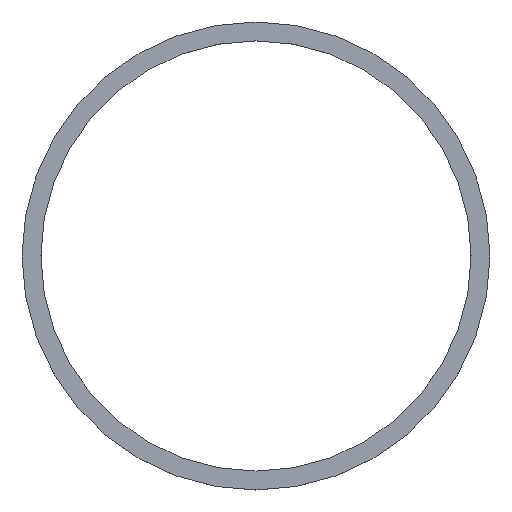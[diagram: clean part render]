
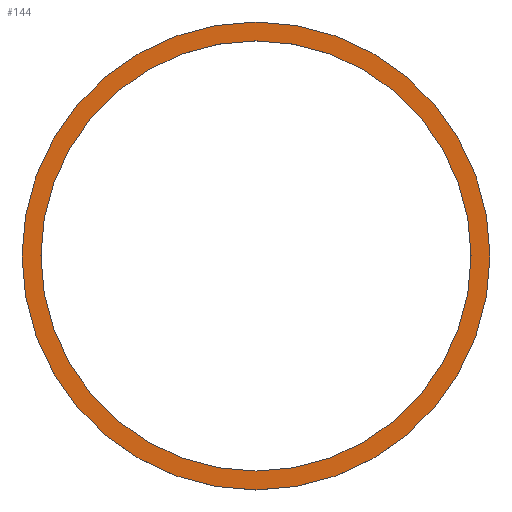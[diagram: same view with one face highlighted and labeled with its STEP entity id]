
A CAD part, top view. The second image highlights one B-rep face of the part: STEP entity #144.
In plain terms, the highlighted planar face has unit normal (0, 0, 1).
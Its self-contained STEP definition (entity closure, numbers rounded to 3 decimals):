
#24 = VERTEX_POINT('',#25);
#25 = CARTESIAN_POINT('',(19.8,43.5,11.6));
#32 = CYLINDRICAL_SURFACE('',#33,19.8);
#33 = AXIS2_PLACEMENT_3D('',#34,#35,#36);
#34 = CARTESIAN_POINT('',(0.,43.5,10.4));
#35 = DIRECTION('',(-0.,-0.,-1.));
#36 = DIRECTION('',(1.,0.,0.));
#51 = EDGE_CURVE('',#24,#24,#52,.T.);
#52 = SURFACE_CURVE('',#53,(#58,#65),.PCURVE_S1.);
#53 = CIRCLE('',#54,19.8);
#54 = AXIS2_PLACEMENT_3D('',#55,#56,#57);
#55 = CARTESIAN_POINT('',(0.,43.5,11.6));
#56 = DIRECTION('',(0.,0.,1.));
#57 = DIRECTION('',(1.,0.,0.));
#58 = PCURVE('',#32,#59);
#59 = DEFINITIONAL_REPRESENTATION('',(#60),#64);
#60 = LINE('',#61,#62);
#61 = CARTESIAN_POINT('',(-0.,-1.2));
#62 = VECTOR('',#63,1.);
#63 = DIRECTION('',(-1.,0.));
#64 = ( GEOMETRIC_REPRESENTATION_CONTEXT(2) 
PARAMETRIC_REPRESENTATION_CONTEXT() REPRESENTATION_CONTEXT('2D SPACE',''
  ) );
#65 = PCURVE('',#66,#71);
#66 = PLANE('',#67);
#67 = AXIS2_PLACEMENT_3D('',#68,#69,#70);
#68 = CARTESIAN_POINT('',(0.,43.5,11.6));
#69 = DIRECTION('',(0.,0.,1.));
#70 = DIRECTION('',(1.,0.,-0.));
#71 = DEFINITIONAL_REPRESENTATION('',(#72),#76);
#72 = CIRCLE('',#73,19.8);
#73 = AXIS2_PLACEMENT_2D('',#74,#75);
#74 = CARTESIAN_POINT('',(0.,0.));
#75 = DIRECTION('',(1.,0.));
#76 = ( GEOMETRIC_REPRESENTATION_CONTEXT(2) 
PARAMETRIC_REPRESENTATION_CONTEXT() REPRESENTATION_CONTEXT('2D SPACE',''
  ) );
#133 = CYLINDRICAL_SURFACE('',#134,18.2);
#134 = AXIS2_PLACEMENT_3D('',#135,#136,#137);
#135 = CARTESIAN_POINT('',(0.,43.5,10.2));
#136 = DIRECTION('',(-0.,-0.,-1.));
#137 = DIRECTION('',(1.,0.,0.));
#144 = ADVANCED_FACE('',(#145,#148),#66,.T.);
#145 = FACE_BOUND('',#146,.T.);
#146 = EDGE_LOOP('',(#147));
#147 = ORIENTED_EDGE('',*,*,#51,.T.);
#148 = FACE_BOUND('',#149,.T.);
#149 = EDGE_LOOP('',(#150));
#150 = ORIENTED_EDGE('',*,*,#151,.T.);
#151 = EDGE_CURVE('',#152,#152,#154,.T.);
#152 = VERTEX_POINT('',#153);
#153 = CARTESIAN_POINT('',(18.2,43.5,11.6));
#154 = SURFACE_CURVE('',#155,(#160,#171),.PCURVE_S1.);
#155 = CIRCLE('',#156,18.2);
#156 = AXIS2_PLACEMENT_3D('',#157,#158,#159);
#157 = CARTESIAN_POINT('',(0.,43.5,11.6));
#158 = DIRECTION('',(0.,0.,-1.));
#159 = DIRECTION('',(1.,0.,0.));
#160 = PCURVE('',#66,#161);
#161 = DEFINITIONAL_REPRESENTATION('',(#162),#170);
#162 = ( BOUNDED_CURVE() B_SPLINE_CURVE(2,(#163,#164,#165,#166,#167,#168
,#169),.UNSPECIFIED.,.T.,.F.) B_SPLINE_CURVE_WITH_KNOTS((1,2,2,2,2,1),(
    -2.094,0.,2.094,4.189,6.283,
8.378),.UNSPECIFIED.) CURVE() GEOMETRIC_REPRESENTATION_ITEM() 
RATIONAL_B_SPLINE_CURVE((1.,0.5,1.,0.5,1.,0.5,1.)) REPRESENTATION_ITEM(
  '') );
#163 = CARTESIAN_POINT('',(18.2,0.));
#164 = CARTESIAN_POINT('',(18.2,-31.523));
#165 = CARTESIAN_POINT('',(-9.1,-15.762));
#166 = CARTESIAN_POINT('',(-36.4,0.));
#167 = CARTESIAN_POINT('',(-9.1,15.762));
#168 = CARTESIAN_POINT('',(18.2,31.523));
#169 = CARTESIAN_POINT('',(18.2,0.));
#170 = ( GEOMETRIC_REPRESENTATION_CONTEXT(2) 
PARAMETRIC_REPRESENTATION_CONTEXT() REPRESENTATION_CONTEXT('2D SPACE',''
  ) );
#171 = PCURVE('',#133,#172);
#172 = DEFINITIONAL_REPRESENTATION('',(#173),#177);
#173 = LINE('',#174,#175);
#174 = CARTESIAN_POINT('',(-6.283,-1.4));
#175 = VECTOR('',#176,1.);
#176 = DIRECTION('',(1.,-0.));
#177 = ( GEOMETRIC_REPRESENTATION_CONTEXT(2) 
PARAMETRIC_REPRESENTATION_CONTEXT() REPRESENTATION_CONTEXT('2D SPACE',''
  ) );
